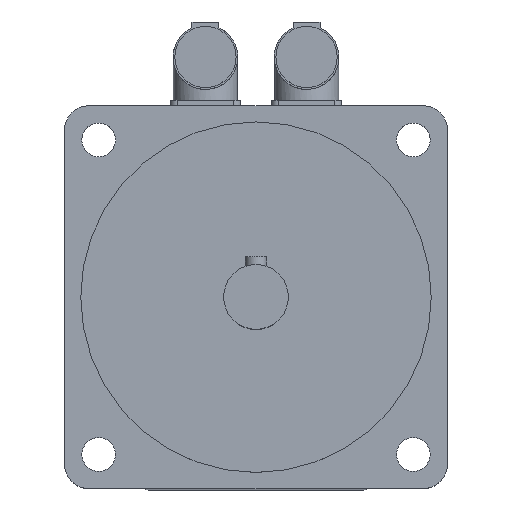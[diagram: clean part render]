
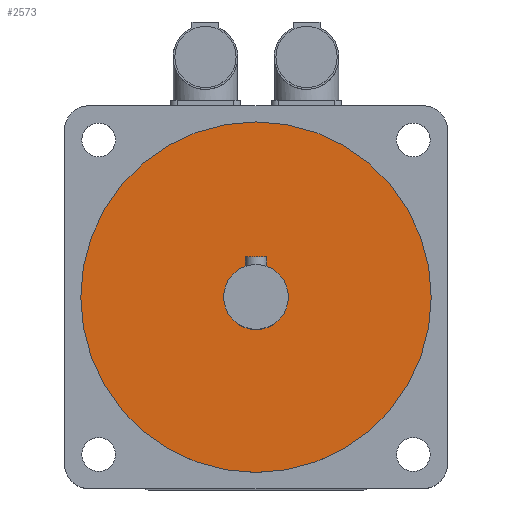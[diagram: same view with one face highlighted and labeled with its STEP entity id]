
A CAD part, top view. The second image highlights one B-rep face of the part: STEP entity #2573.
In plain terms, the highlighted planar face has unit normal (0, 0, 1).
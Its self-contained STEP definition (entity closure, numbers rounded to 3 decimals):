
#40=FACE_BOUND('',#443,.T.);
#68=CIRCLE('',#2730,12.);
#69=CIRCLE('',#2733,65.);
#285=FACE_OUTER_BOUND('',#442,.T.);
#442=EDGE_LOOP('',(#1750));
#443=EDGE_LOOP('',(#1751));
#1090=VERTEX_POINT('',#3908);
#1091=VERTEX_POINT('',#3912);
#1348=EDGE_CURVE('',#1090,#1090,#68,.T.);
#1349=EDGE_CURVE('',#1091,#1091,#69,.T.);
#1750=ORIENTED_EDGE('',*,*,#1349,.T.);
#1751=ORIENTED_EDGE('',*,*,#1348,.T.);
#2497=PLANE('',#2735);
#2573=ADVANCED_FACE('',(#285,#40),#2497,.F.);
#2730=AXIS2_PLACEMENT_3D('',#3909,#3045,#3046);
#2733=AXIS2_PLACEMENT_3D('',#3913,#3051,#3052);
#2735=AXIS2_PLACEMENT_3D('',#3916,#3055,#3056);
#3045=DIRECTION('center_axis',(0.,0.,
-1.));
#3046=DIRECTION('ref_axis',(-1.,0.,0.));
#3051=DIRECTION('center_axis',(0.,0.,
1.));
#3052=DIRECTION('ref_axis',(-1.,0.,0.));
#3055=DIRECTION('center_axis',(0.,0.,
-1.));
#3056=DIRECTION('ref_axis',(-1.,0.,0.));
#3908=CARTESIAN_POINT('',(12.,0.,276.5));
#3909=CARTESIAN_POINT('Origin',(0.,0.,
276.5));
#3912=CARTESIAN_POINT('',(65.,0.,276.5));
#3913=CARTESIAN_POINT('Origin',(0.,0.,
276.5));
#3916=CARTESIAN_POINT('Origin',(0.,0.,
276.5));
